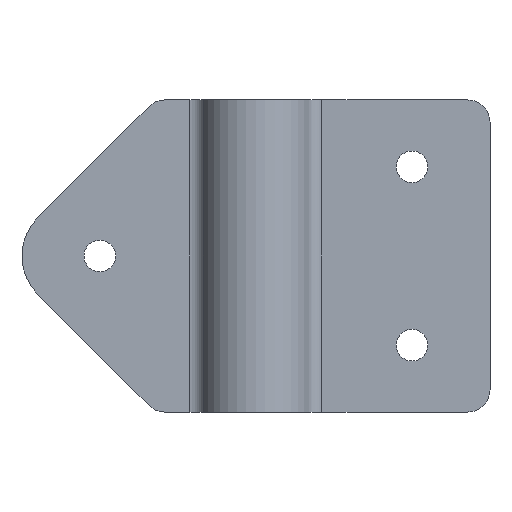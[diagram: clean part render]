
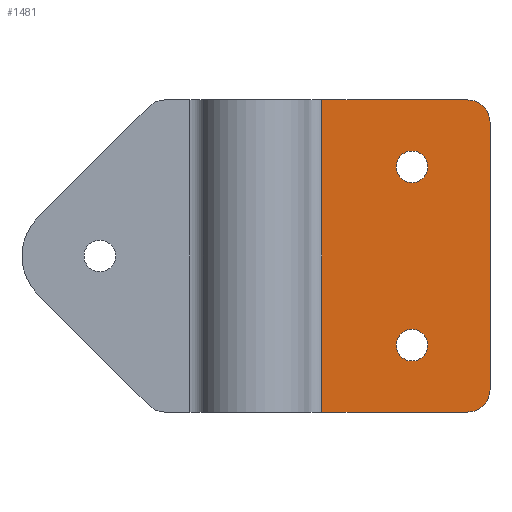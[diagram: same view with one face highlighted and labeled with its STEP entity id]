
A CAD part, front view. The second image highlights one B-rep face of the part: STEP entity #1481.
In plain terms, the highlighted planar face has unit normal (0, -1, 0).
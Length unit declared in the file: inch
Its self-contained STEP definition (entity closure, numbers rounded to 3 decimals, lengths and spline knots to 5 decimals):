
#7 = DIRECTION ( 'NONE',  ( 0., 0., -1. ) ) ;
#8 = DIRECTION ( 'NONE',  ( 0., -1., 0. ) ) ;
#10 = CARTESIAN_POINT ( 'NONE',  ( 0.875, -0.0575, 0.5 ) ) ;
#13 = DIRECTION ( 'NONE',  ( 0., 0., -1. ) ) ;
#19 = CARTESIAN_POINT ( 'NONE',  ( 0.875, -0.0575, -0.5 ) ) ;
#36 = CARTESIAN_POINT ( 'NONE',  ( 1.3125, -0.0575, -0.875 ) ) ;
#121 = VERTEX_POINT ( 'NONE', #204 ) ;
#123 = VERTEX_POINT ( 'NONE', #206 ) ;
#126 = VERTEX_POINT ( 'NONE', #207 ) ;
#131 = VERTEX_POINT ( 'NONE', #214 ) ;
#132 = VERTEX_POINT ( 'NONE', #213 ) ;
#134 = VERTEX_POINT ( 'NONE', #215 ) ;
#138 = VERTEX_POINT ( 'NONE', #219 ) ;
#141 = VERTEX_POINT ( 'NONE', #224 ) ;
#169 = VERTEX_POINT ( 'NONE', #251 ) ;
#172 = VERTEX_POINT ( 'NONE', #254 ) ;
#204 = CARTESIAN_POINT ( 'NONE',  ( 0.36979, -0.0575, 0.875 ) ) ;
#206 = CARTESIAN_POINT ( 'NONE',  ( 0.875, -0.0575, 0.5885 ) ) ;
#207 = CARTESIAN_POINT ( 'NONE',  ( 1.1875, -0.0575, -0.875 ) ) ;
#213 = CARTESIAN_POINT ( 'NONE',  ( 0.36979, -0.0575, -0.875 ) ) ;
#214 = CARTESIAN_POINT ( 'NONE',  ( 1.1875, -0.0575, 0.875 ) ) ;
#215 = CARTESIAN_POINT ( 'NONE',  ( 1.3125, -0.0575, 0.75 ) ) ;
#219 = CARTESIAN_POINT ( 'NONE',  ( 0.875, -0.0575, -0.4115 ) ) ;
#224 = CARTESIAN_POINT ( 'NONE',  ( 0.875, -0.0575, 0.4115 ) ) ;
#251 = CARTESIAN_POINT ( 'NONE',  ( 0.875, -0.0575, -0.5885 ) ) ;
#254 = CARTESIAN_POINT ( 'NONE',  ( 1.3125, -0.0575, -0.75 ) ) ;
#392 = CARTESIAN_POINT ( 'NONE',  ( 0.255, -0.0575, -0.875 ) ) ;
#393 = DIRECTION ( 'NONE',  ( 0., -1., 0. ) ) ;
#420 = PLANE ( 'NONE',  #849 ) ;
#426 = DIRECTION ( 'NONE',  ( -1., 0., 0. ) ) ;
#455 = DIRECTION ( 'NONE',  ( 0., -1., 0. ) ) ;
#536 = DIRECTION ( 'NONE',  ( -1., 0., 0. ) ) ;
#537 = DIRECTION ( 'NONE',  ( 0., -1., 0. ) ) ;
#544 = DIRECTION ( 'NONE',  ( 0., -1., 0. ) ) ;
#550 = DIRECTION ( 'NONE',  ( 1., 0., 0. ) ) ;
#554 = CARTESIAN_POINT ( 'NONE',  ( 0.36979, -0.0575, -0.875 ) ) ;
#557 = CARTESIAN_POINT ( 'NONE',  ( 1.1875, -0.0575, 0.75 ) ) ;
#558 = CARTESIAN_POINT ( 'NONE',  ( 1.1875, -0.0575, -0.75 ) ) ;
#559 = CARTESIAN_POINT ( 'NONE',  ( 0.875, -0.0575, 0.5 ) ) ;
#560 = DIRECTION ( 'NONE',  ( 0., 0., -1. ) ) ;
#563 = CARTESIAN_POINT ( 'NONE',  ( 0.255, -0.0575, 0.875 ) ) ;
#565 = CARTESIAN_POINT ( 'NONE',  ( 0.255, -0.0575, -0.875 ) ) ;
#566 = DIRECTION ( 'NONE',  ( 1., 0., 0. ) ) ;
#569 = CARTESIAN_POINT ( 'NONE',  ( 0.875, -0.0575, -0.5 ) ) ;
#570 = DIRECTION ( 'NONE',  ( 0., 0., -1. ) ) ;
#573 = DIRECTION ( 'NONE',  ( 0., 0., -1. ) ) ;
#575 = DIRECTION ( 'NONE',  ( -1., 0., 0. ) ) ;
#576 = DIRECTION ( 'NONE',  ( 0., -1., 0. ) ) ;
#580 = DIRECTION ( 'NONE',  ( 0., -1., 0. ) ) ;
#698 = DIRECTION ( 'NONE',  ( 0., 0., 1. ) ) ;
#849 = AXIS2_PLACEMENT_3D ( 'NONE', #392, #393, #426 ) ;
#877 = VECTOR ( 'NONE', #560, 39.37008 ) ;
#919 = CIRCLE ( 'NONE', #1812, 0.125 ) ;
#928 = VECTOR ( 'NONE', #566, 39.37008 ) ;
#940 = LINE ( 'NONE', #565, #928 ) ;
#964 = ORIENTED_EDGE ( 'NONE', *, *, #1763, .F. ) ;
#973 = CIRCLE ( 'NONE', #1815, 0.0885 ) ;
#989 = CIRCLE ( 'NONE', #1813, 0.0885 ) ;
#1081 = VECTOR ( 'NONE', #550, 39.37008 ) ;
#1100 = FACE_OUTER_BOUND ( 'NONE', #1632, .T. ) ;
#1109 = VECTOR ( 'NONE', #698, 39.37008 ) ;
#1180 = CIRCLE ( 'NONE', #1686, 0.0885 ) ;
#1183 = CIRCLE ( 'NONE', #1684, 0.0885 ) ;
#1197 = CIRCLE ( 'NONE', #1809, 0.125 ) ;
#1278 = LINE ( 'NONE', #563, #1081 ) ;
#1281 = ORIENTED_EDGE ( 'NONE', *, *, #1719, .T. ) ;
#1287 = FACE_BOUND ( 'NONE', #1564, .T. ) ;
#1288 = FACE_BOUND ( 'NONE', #1570, .T. ) ;
#1328 = ORIENTED_EDGE ( 'NONE', *, *, #1862, .T. ) ;
#1330 = ORIENTED_EDGE ( 'NONE', *, *, #1720, .T. ) ;
#1354 = ORIENTED_EDGE ( 'NONE', *, *, #1726, .F. ) ;
#1355 = ORIENTED_EDGE ( 'NONE', *, *, #1722, .T. ) ;
#1388 = ORIENTED_EDGE ( 'NONE', *, *, #1723, .F. ) ;
#1404 = ORIENTED_EDGE ( 'NONE', *, *, #1724, .F. ) ;
#1405 = ORIENTED_EDGE ( 'NONE', *, *, #1766, .F. ) ;
#1409 = LINE ( 'NONE', #36, #1109 ) ;
#1420 = LINE ( 'NONE', #554, #877 ) ;
#1481 = ADVANCED_FACE ( 'NONE', ( #1288, #1287, #1100 ), #420, .T. ) ;
#1564 = EDGE_LOOP ( 'NONE', ( #1404, #1405 ) ) ;
#1570 = EDGE_LOOP ( 'NONE', ( #1388, #964 ) ) ;
#1613 = ORIENTED_EDGE ( 'NONE', *, *, #1721, .T. ) ;
#1632 = EDGE_LOOP ( 'NONE', ( #1355, #1330, #1328, #1613, #1354, #1281 ) ) ;
#1684 = AXIS2_PLACEMENT_3D ( 'NONE', #10, #455, #13 ) ;
#1686 = AXIS2_PLACEMENT_3D ( 'NONE', #19, #8, #7 ) ;
#1719 = EDGE_CURVE ( 'NONE', #121, #132, #1420, .T. ) ;
#1720 = EDGE_CURVE ( 'NONE', #126, #172, #919, .T. ) ;
#1721 = EDGE_CURVE ( 'NONE', #134, #131, #1197, .T. ) ;
#1722 = EDGE_CURVE ( 'NONE', #132, #126, #940, .T. ) ;
#1723 = EDGE_CURVE ( 'NONE', #141, #123, #973, .T. ) ;
#1724 = EDGE_CURVE ( 'NONE', #169, #138, #989, .T. ) ;
#1726 = EDGE_CURVE ( 'NONE', #121, #131, #1278, .T. ) ;
#1763 = EDGE_CURVE ( 'NONE', #123, #141, #1183, .T. ) ;
#1766 = EDGE_CURVE ( 'NONE', #138, #169, #1180, .T. ) ;
#1809 = AXIS2_PLACEMENT_3D ( 'NONE', #557, #537, #536 ) ;
#1812 = AXIS2_PLACEMENT_3D ( 'NONE', #558, #576, #575 ) ;
#1813 = AXIS2_PLACEMENT_3D ( 'NONE', #569, #544, #573 ) ;
#1815 = AXIS2_PLACEMENT_3D ( 'NONE', #559, #580, #570 ) ;
#1862 = EDGE_CURVE ( 'NONE', #172, #134, #1409, .T. ) ;
